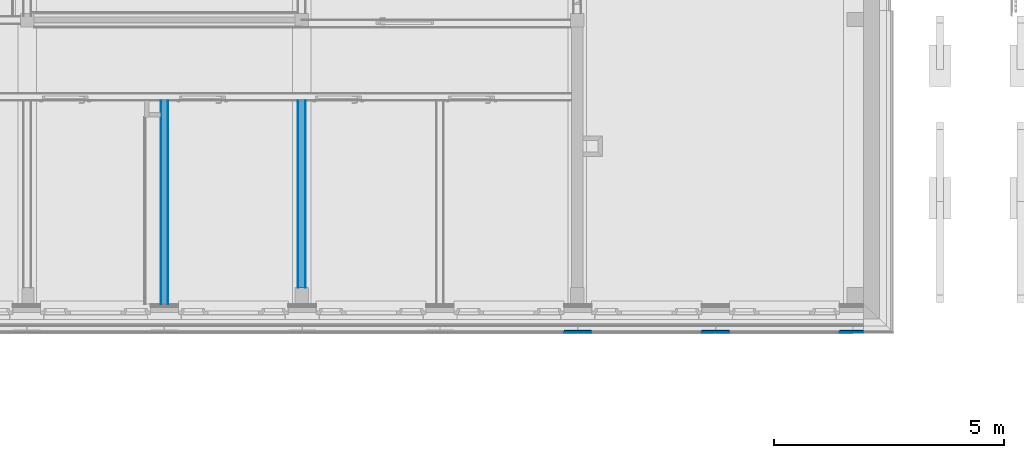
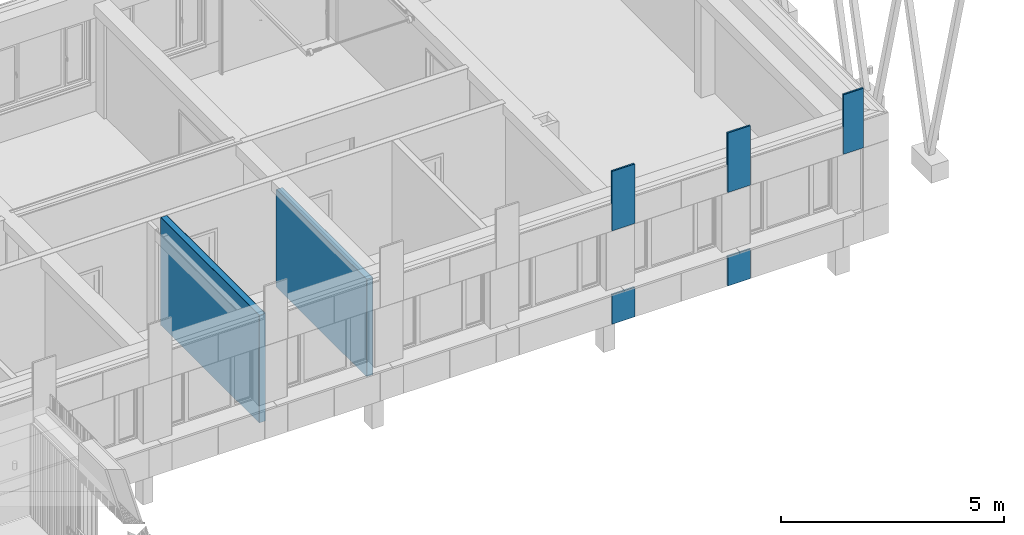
# One storey, part 42 of 418: 16 building element parts, 7 elements without a shape of their own.
"""IFC2X3 building model written with IfcOpenShell, lengths in millimetres."""

from ifc_helpers import new_model, entity, si_unit, converted_unit, derived_unit, money_unit, direction, frame, origin_with_axes, place, context, subcontext, project, spatial, polyline, outline, extrude, material, type_object, element, aggregate, save


model = new_model("IFC2X3")

# Units and contexts
model_context = context("Model", 3, precision=0.01, world=origin_with_axes(), true_north=direction((0.0, 1.0)))
body_context = subcontext(model_context, "Body", "Model", "MODEL_VIEW")
ifc_project = project(units=[si_unit("LENGTHUNIT", "METRE", prefix="MILLI"), si_unit("AREAUNIT", "SQUARE_METRE"), si_unit("VOLUMEUNIT", "CUBIC_METRE"), converted_unit("PLANEANGLEUNIT", "DEGREE", entity("IfcPlaneAngleMeasure", 0.0174532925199), si_unit("PLANEANGLEUNIT", "RADIAN"), dimensions=[0, 0, 0, 0, 0, 0, 0]), si_unit("SOLIDANGLEUNIT", "STERADIAN"), money_unit("EUR"), converted_unit("TIMEUNIT", "Year", entity("IfcTimeMeasure", 31556926.0), si_unit("TIMEUNIT", "SECOND"), dimensions=[0, 0, 1, 0, 0, 0, 0]), si_unit("MASSUNIT", "GRAM", prefix="KILO"), si_unit("THERMODYNAMICTEMPERATUREUNIT", "DEGREE_CELSIUS"), si_unit("LUMINOUSINTENSITYUNIT", "LUMEN"), si_unit("ENERGYUNIT", "JOULE", prefix="MEGA"), derived_unit("THERMALCONDUCTANCEUNIT", [(si_unit("POWERUNIT", "WATT"), 1), (si_unit("LENGTHUNIT", "METRE"), -1), (si_unit("THERMODYNAMICTEMPERATUREUNIT", "KELVIN"), -1)]), derived_unit("SPECIFICHEATCAPACITYUNIT", [(si_unit("ENERGYUNIT", "JOULE"), 1), (si_unit("MASSUNIT", "GRAM", prefix="KILO"), -1), (si_unit("THERMODYNAMICTEMPERATUREUNIT", "KELVIN"), -1)]), derived_unit("MASSDENSITYUNIT", [(si_unit("MASSUNIT", "GRAM", prefix="KILO"), 1), (si_unit("VOLUMEUNIT", "CUBIC_METRE"), -1)])], contexts=[model_context])

# Site, building, storey
site_placement = place(None, origin_with_axes())
site = spatial("IfcSite", under=ifc_project, at=site_placement, Name="Paldiski mnt 245/1, Tallinn, Harjumaa", CompositionType="COMPLEX")
building_placement = place(site_placement, origin_with_axes())
building = spatial("IfcBuilding", under=site, at=building_placement, Name="RKAS Hoone üldnimetus (kasutust iseloomustav) -> IFC Project Manager -> SOLIBRI", CompositionType="ELEMENT")
storey_placement = place(building_placement, origin_with_axes())
storey = spatial("IfcBuildingStorey", under=building, at=storey_placement, Name="Esimene korrus", CompositionType="ELEMENT", Elevation=0.0)

# Covering, building element parts
covering_type = type_object("IfcCoveringType", Name="VS-02_Cembrit_c040 50", PredefinedType="NOTDEFINED")
covering_1_placement = place(storey_placement, frame((-20746.0, -13130.0843011, 2560.0), z_axis=(0.0, 0.0, 1.0), x_axis=(1.0, 0.0, 0.0)))
covering_1 = element("IfcCovering", 1, at=covering_1_placement, inside=storey, type_object=covering_type, Name="VS-02", PredefinedType="NOTDEFINED")
ifc_material_1 = material(Name="Cembrit_C040")
building_element_part_1_placement = place(covering_1_placement, origin_with_axes())
building_element_part_1 = element("IfcBuildingElementPart", 2, at=building_element_part_1_placement, material=ifc_material_1, Name="Cembrit_C040", context=body_context, shape_type="SweptSolid", body=[
    extrude(outline(polyline([(0.0, 0.0), (592.0, 0.0), (592.0, 8.0), (0.0, 8.0), (0.0, 0.0)])), origin_with_axes(), (0.0, 0.0, 1.0), 1630.0),
])
ifc_material_2 = material(Name="VKR-06_Õhkvahe")
building_element_part_2_placement = place(covering_1_placement, origin_with_axes())
building_element_part_2 = element("IfcBuildingElementPart", 3, at=building_element_part_2_placement, material=ifc_material_2, Name="VKR-06_Õhkvahe", context=body_context, shape_type="SweptSolid", body=[
    extrude(outline(polyline([(0.0, 8.0), (592.0, 8.0), (592.0, 50.0), (0.0, 50.0), (0.0, 8.0)])), origin_with_axes(), (0.0, 0.0, 1.0), 1630.0),
])
aggregate(covering_1, [building_element_part_1, building_element_part_2])

# Wall, building element parts
wall_type = type_object("IfcWallType", Name="SS-04 170", PredefinedType="NOTDEFINED")
wall_1_placement = place(storey_placement, frame((-29460.0, -12150.0840871, 0.0), z_axis=(0.0, 0.0, 1.0), x_axis=(0.0, 1.0, 0.0)))
wall_1 = element("IfcWall", 4, at=wall_1_placement, inside=storey, type_object=wall_type, Name="SS-04")
ifc_material_3 = material(Name="Krohv")
building_element_part_3_placement = place(wall_1_placement, origin_with_axes())
building_element_part_3 = element("IfcBuildingElementPart", 5, at=building_element_part_3_placement, material=ifc_material_3, Name="Krohv", context=body_context, shape_type="SweptSolid", body=[
    extrude(outline(polyline([(0.0, 75.0), (4065.08408706, 75.0), (4065.08408706, 85.0), (0.0, 85.0), (0.0, 75.0)])), origin_with_axes(), (0.0, 0.0, 1.0), 2670.0),
])
ifc_material_4 = material(Name="FIBO 5")
building_element_part_4_placement = place(wall_1_placement, origin_with_axes())
building_element_part_4 = element("IfcBuildingElementPart", 6, at=building_element_part_4_placement, material=ifc_material_4, Name="FIBO 5", context=body_context, shape_type="SweptSolid", body=[
    extrude(outline(polyline([(0.0, -75.0), (4065.08408706, -75.0), (4065.08408706, 75.0), (0.0, 75.0), (0.0, -75.0)])), origin_with_axes(), (0.0, 0.0, 1.0), 2670.0),
])
building_element_part_5_placement = place(wall_1_placement, origin_with_axes())
building_element_part_5 = element("IfcBuildingElementPart", 7, at=building_element_part_5_placement, material=ifc_material_3, Name="Krohv", context=body_context, shape_type="SweptSolid", body=[
    extrude(outline(polyline([(0.0, -85.0), (4065.08408706, -85.0), (4065.08408706, -75.0), (0.0, -75.0), (0.0, -85.0)])), origin_with_axes(), (0.0, 0.0, 1.0), 2670.0),
])
aggregate(wall_1, [building_element_part_3, building_element_part_4, building_element_part_5])

# Covering, building element parts
covering_2_placement = place(storey_placement, frame((-17746.0, -13130.0843011, 2560.0), z_axis=(0.0, 0.0, 1.0), x_axis=(1.0, 0.0, 0.0)))
covering_2 = element("IfcCovering", 8, at=covering_2_placement, inside=storey, type_object=covering_type, Name="VS-02", PredefinedType="NOTDEFINED")
building_element_part_6_placement = place(covering_2_placement, origin_with_axes())
building_element_part_6 = element("IfcBuildingElementPart", 9, at=building_element_part_6_placement, material=ifc_material_1, Name="Cembrit_C040", context=body_context, shape_type="SweptSolid", body=[
    extrude(outline(polyline([(0.0, 0.0), (516.0, 0.0), (516.0, 8.0), (0.0, 8.0), (0.0, 0.0)])), origin_with_axes(), (0.0, 0.0, 1.0), 1630.0),
])
building_element_part_7_placement = place(covering_2_placement, origin_with_axes())
building_element_part_7 = element("IfcBuildingElementPart", 10, at=building_element_part_7_placement, material=ifc_material_2, Name="VKR-06_Õhkvahe", context=body_context, shape_type="SweptSolid", body=[
    extrude(outline(polyline([(0.0, 8.0), (516.0, 8.0), (516.0, 50.0), (0.0, 50.0), (0.0, 8.0)])), origin_with_axes(), (0.0, 0.0, 1.0), 1630.0),
])
aggregate(covering_2, [building_element_part_6, building_element_part_7])

# Wall, building element parts
wall_2_placement = place(storey_placement, frame((-32450.0, -12510.0843011, 0.0), z_axis=(0.0, 0.0, 1.0), x_axis=(0.0, 1.0, 0.0)))
wall_2 = element("IfcWall", 11, at=wall_2_placement, inside=storey, type_object=wall_type, Name="SS-04")
building_element_part_8_placement = place(wall_2_placement, origin_with_axes())
building_element_part_8 = element("IfcBuildingElementPart", 12, at=building_element_part_8_placement, material=ifc_material_3, Name="Krohv", context=body_context, shape_type="SweptSolid", body=[
    extrude(outline(polyline([(0.0, 75.0), (4425.08430108, 75.0), (4425.08430108, 85.0), (0.0, 85.0), (0.0, 75.0)])), origin_with_axes(), (0.0, 0.0, 1.0), 2950.0),
])
building_element_part_9_placement = place(wall_2_placement, origin_with_axes())
building_element_part_9 = element("IfcBuildingElementPart", 13, at=building_element_part_9_placement, material=ifc_material_4, Name="FIBO 5", context=body_context, shape_type="SweptSolid", body=[
    extrude(outline(polyline([(0.0, -75.0), (4425.08430108, -75.0), (4425.08430108, 75.0), (0.0, 75.0), (0.0, -75.0)])), origin_with_axes(), (0.0, 0.0, 1.0), 2950.0),
])
building_element_part_10_placement = place(wall_2_placement, origin_with_axes())
building_element_part_10 = element("IfcBuildingElementPart", 14, at=building_element_part_10_placement, material=ifc_material_3, Name="Krohv", context=body_context, shape_type="SweptSolid", body=[
    extrude(outline(polyline([(0.0, -85.0), (4425.08430108, -85.0), (4425.08430108, -75.0), (0.0, -75.0), (0.0, -85.0)])), origin_with_axes(), (0.0, 0.0, 1.0), 2950.0),
])
aggregate(wall_2, [building_element_part_8, building_element_part_9, building_element_part_10])

# Covering, building element parts
covering_3_placement = place(storey_placement, frame((-23746.0, -13130.0843011, 2560.0), z_axis=(0.0, 0.0, 1.0), x_axis=(1.0, 0.0, 0.0)))
covering_3 = element("IfcCovering", 15, at=covering_3_placement, inside=storey, type_object=covering_type, Name="VS-02", PredefinedType="NOTDEFINED")
building_element_part_11_placement = place(covering_3_placement, origin_with_axes())
building_element_part_11 = element("IfcBuildingElementPart", 16, at=building_element_part_11_placement, material=ifc_material_1, Name="Cembrit_C040", context=body_context, shape_type="SweptSolid", body=[
    extrude(outline(polyline([(0.0, 0.0), (592.0, 0.0), (592.0, 8.0), (0.0, 8.0), (0.0, 0.0)])), origin_with_axes(), (0.0, 0.0, 1.0), 1630.0),
])
building_element_part_12_placement = place(covering_3_placement, origin_with_axes())
building_element_part_12 = element("IfcBuildingElementPart", 17, at=building_element_part_12_placement, material=ifc_material_2, Name="VKR-06_Õhkvahe", context=body_context, shape_type="SweptSolid", body=[
    extrude(outline(polyline([(0.0, 8.0), (592.0, 8.0), (592.0, 50.0), (0.0, 50.0), (0.0, 8.0)])), origin_with_axes(), (0.0, 0.0, 1.0), 1630.0),
])
aggregate(covering_3, [building_element_part_11, building_element_part_12])

covering_4_placement = place(storey_placement, frame((-23746.0, -13130.0843011, 0.0), z_axis=(0.0, 0.0, 1.0), x_axis=(1.0, 0.0, 0.0)))
covering_4 = element("IfcCovering", 18, at=covering_4_placement, inside=storey, type_object=covering_type, Name="VS-02", PredefinedType="NOTDEFINED")
building_element_part_13_placement = place(covering_4_placement, origin_with_axes())
building_element_part_13 = element("IfcBuildingElementPart", 19, at=building_element_part_13_placement, material=ifc_material_1, Name="Cembrit_C040", context=body_context, shape_type="SweptSolid", body=[
    extrude(outline(polyline([(0.0, 0.0), (592.0, 0.0), (592.0, 8.0), (0.0, 8.0), (0.0, 0.0)])), origin_with_axes(), (0.0, 0.0, 1.0), 810.0),
])
building_element_part_14_placement = place(covering_4_placement, origin_with_axes())
building_element_part_14 = element("IfcBuildingElementPart", 20, at=building_element_part_14_placement, material=ifc_material_2, Name="VKR-06_Õhkvahe", context=body_context, shape_type="SweptSolid", body=[
    extrude(outline(polyline([(0.0, 8.0), (592.0, 8.0), (592.0, 50.0), (0.0, 50.0), (0.0, 8.0)])), origin_with_axes(), (0.0, 0.0, 1.0), 810.0),
])
aggregate(covering_4, [building_element_part_13, building_element_part_14])

covering_5_placement = place(storey_placement, frame((-20746.0, -13130.0843011, 0.0), z_axis=(0.0, 0.0, 1.0), x_axis=(1.0, 0.0, 0.0)))
covering_5 = element("IfcCovering", 21, at=covering_5_placement, inside=storey, type_object=covering_type, Name="VS-02", PredefinedType="NOTDEFINED")
building_element_part_15_placement = place(covering_5_placement, origin_with_axes())
building_element_part_15 = element("IfcBuildingElementPart", 22, at=building_element_part_15_placement, material=ifc_material_1, Name="Cembrit_C040", context=body_context, shape_type="SweptSolid", body=[
    extrude(outline(polyline([(0.0, 0.0), (592.0, 0.0), (592.0, 8.0), (0.0, 8.0), (0.0, 0.0)])), origin_with_axes(), (0.0, 0.0, 1.0), 810.0),
])
building_element_part_16_placement = place(covering_5_placement, origin_with_axes())
building_element_part_16 = element("IfcBuildingElementPart", 23, at=building_element_part_16_placement, material=ifc_material_2, Name="VKR-06_Õhkvahe", context=body_context, shape_type="SweptSolid", body=[
    extrude(outline(polyline([(0.0, 8.0), (592.0, 8.0), (592.0, 50.0), (0.0, 50.0), (0.0, 8.0)])), origin_with_axes(), (0.0, 0.0, 1.0), 810.0),
])
aggregate(covering_5, [building_element_part_15, building_element_part_16])

save(model, "model.ifc")
